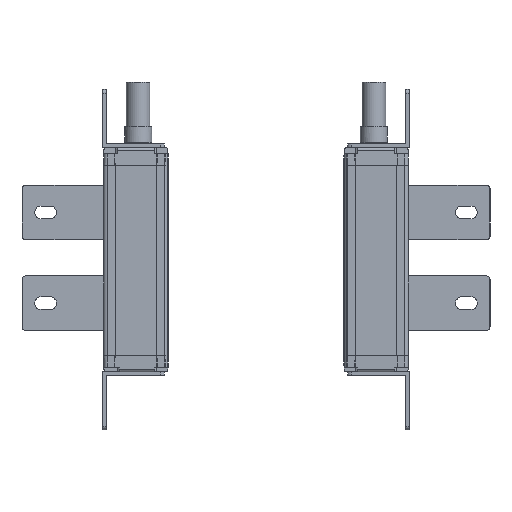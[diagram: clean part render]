
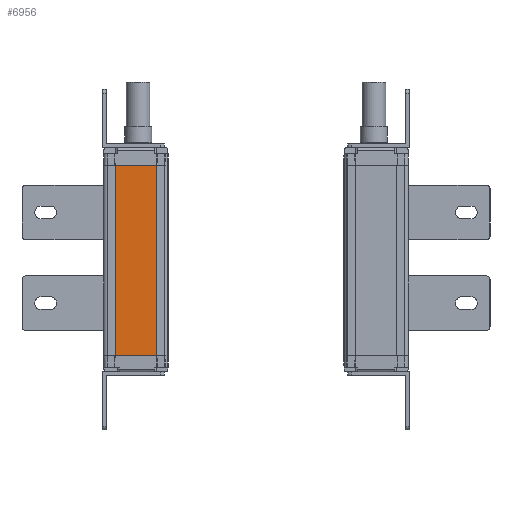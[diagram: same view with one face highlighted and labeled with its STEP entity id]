
A CAD part, left-side view. The second image highlights one B-rep face of the part: STEP entity #6956.
In plain terms, the highlighted planar face has unit normal (-1, 0, 0).
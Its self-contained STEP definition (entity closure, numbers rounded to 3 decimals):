
#953=FACE_OUTER_BOUND('',#9034,.T.);
#2188=LINE('',#33710,#4326);
#2290=LINE('',#34050,#4428);
#2291=LINE('',#34052,#4429);
#2292=LINE('',#34054,#4430);
#4326=VECTOR('',#26897,1.);
#4428=VECTOR('',#27185,1.);
#4429=VECTOR('',#27188,1.);
#4430=VECTOR('',#27189,1.);
#6178=PLANE('',#23723);
#6956=ADVANCED_FACE('',(#953),#6178,.T.);
#9034=EDGE_LOOP('',(#11681,#11682,#11683,#11684));
#11681=ORIENTED_EDGE('',*,*,#19828,.F.);
#11682=ORIENTED_EDGE('',*,*,#19829,.T.);
#11683=ORIENTED_EDGE('',*,*,#19830,.T.);
#11684=ORIENTED_EDGE('',*,*,#19658,.F.);
#17203=VERTEX_POINT('',#33709);
#17204=VERTEX_POINT('',#33711);
#17348=VERTEX_POINT('',#34049);
#17349=VERTEX_POINT('',#34053);
#19658=EDGE_CURVE('',#17203,#17204,#2188,.T.);
#19828=EDGE_CURVE('',#17348,#17203,#2290,.T.);
#19829=EDGE_CURVE('',#17348,#17349,#2291,.T.);
#19830=EDGE_CURVE('',#17349,#17204,#2292,.T.);
#23723=AXIS2_PLACEMENT_3D('',#34055,#27190,#27191);
#26897=DIRECTION('',(0.,-1.,0.));
#27185=DIRECTION('',(0.,0.,1.));
#27188=DIRECTION('',(0.,-1.,0.));
#27189=DIRECTION('',(0.,0.,1.));
#27190=DIRECTION('',(-1.,0.,0.));
#27191=DIRECTION('',(0.,1.,0.));
#33709=CARTESIAN_POINT('',(233.846,104.141,31.645));
#33710=CARTESIAN_POINT('',(233.846,81.141,31.645));
#33711=CARTESIAN_POINT('',(233.846,81.141,31.645));
#34049=CARTESIAN_POINT('',(233.846,104.141,-73.355));
#34050=CARTESIAN_POINT('',(233.846,104.141,-155.355));
#34052=CARTESIAN_POINT('',(233.846,81.141,-73.355));
#34053=CARTESIAN_POINT('',(233.846,81.141,-73.355));
#34054=CARTESIAN_POINT('',(233.846,81.141,-155.355));
#34055=CARTESIAN_POINT('',(233.846,81.141,-50.355));
